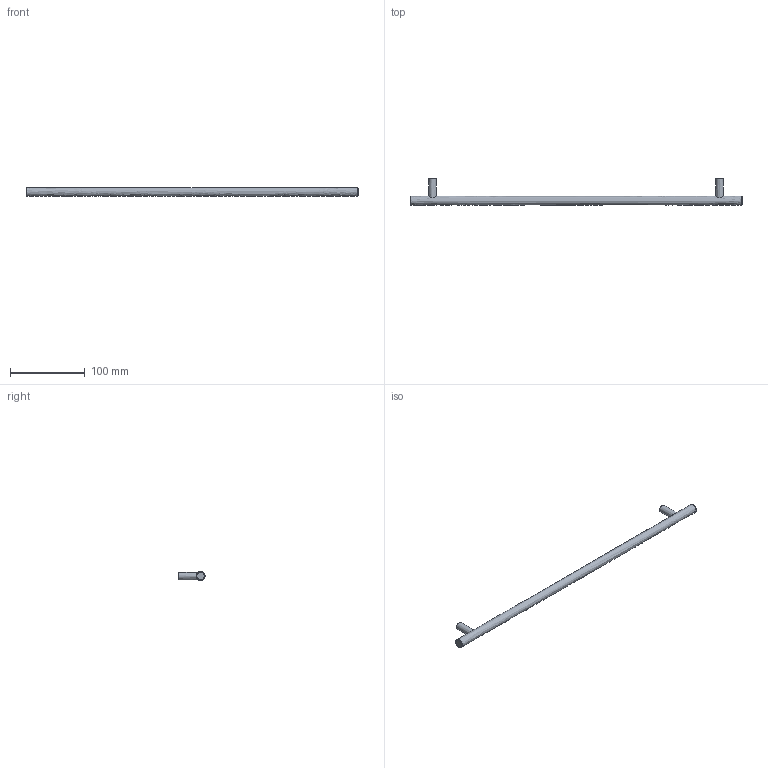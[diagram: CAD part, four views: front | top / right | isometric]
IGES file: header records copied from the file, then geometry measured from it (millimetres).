
Start section: Data from Parasolid IGES Translator 15.0.47, Copyright(c) 2006 Siemens P LM Software. All Rights Reserved.
Global section: file name: 9070732.igs; native system:  By UGS Corp.; preprocessor: XPlus GENERIC/IGES 3.0; author: Noname; organization: Noname; date: 20140123.103916; units: millimetre
Bounding box: 444 x 35 x 12 mm (x, y, z)
Surface area: 18636.1 mm2 (no closed solid volume)
Topology: 0 solids, 0 shells, 13 faces, 42 edges, 34 vertices
Faces by surface type: revolution 7, extrusion 6
